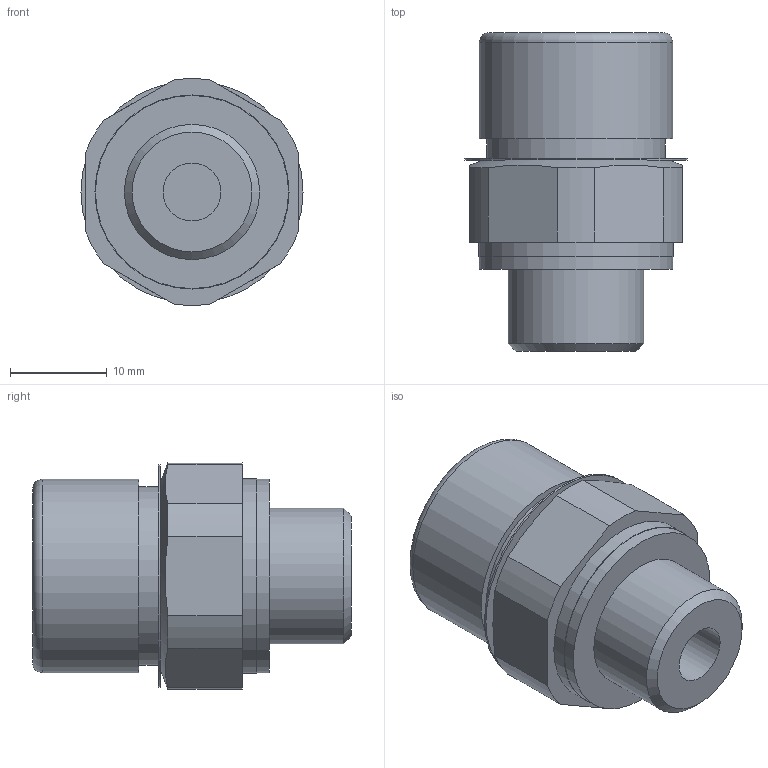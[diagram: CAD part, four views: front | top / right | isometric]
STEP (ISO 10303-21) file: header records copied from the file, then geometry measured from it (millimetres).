
FILE_DESCRIPTION( ( 'STEP AP203' ), '1' );
FILE_NAME( 'C:/Temp/Ganter_Step_05_03_2020/data/3_5/gn881/Breather valve GN 881-M14x1,5-200-MS-M.stp', '2020-03-12T13:42:35', ( 'License CC BY-ND 4.0' ), ( 'CADENAS' ), ' ', 'PARTsolutions', ' ' );
FILE_SCHEMA( ( 'CONFIG_CONTROL_DESIGN' ) );
Length unit declared in the file: millimetre
Products named in the file (1): _Breather valve GN 881-M14x1,5-200-MS-M
Bounding box: 23 x 33 x 23.46 mm (x, y, z)
Volume: 9242.5 mm3; surface area: 3393.3 mm2
Topology: 1 solids, 1 shells, 34 faces, 70 edges, 46 vertices
Faces by surface type: plane 16, cylinder 14, cone 3, torus 1
Full cylindrical faces by diameter (mm): 6 x1, 14 x1, 18.5 x1, 19 x1, 20 x2, 20.1 x1, 23 x1
Entity records: 890 total; most frequent: CARTESIAN_POINT 161, DIRECTION 152, ORIENTED_EDGE 112, AXIS2_PLACEMENT_3D 67, EDGE_CURVE 56, EDGE_LOOP 54, VERTEX_POINT 44, FACE_OUTER_BOUND 43
